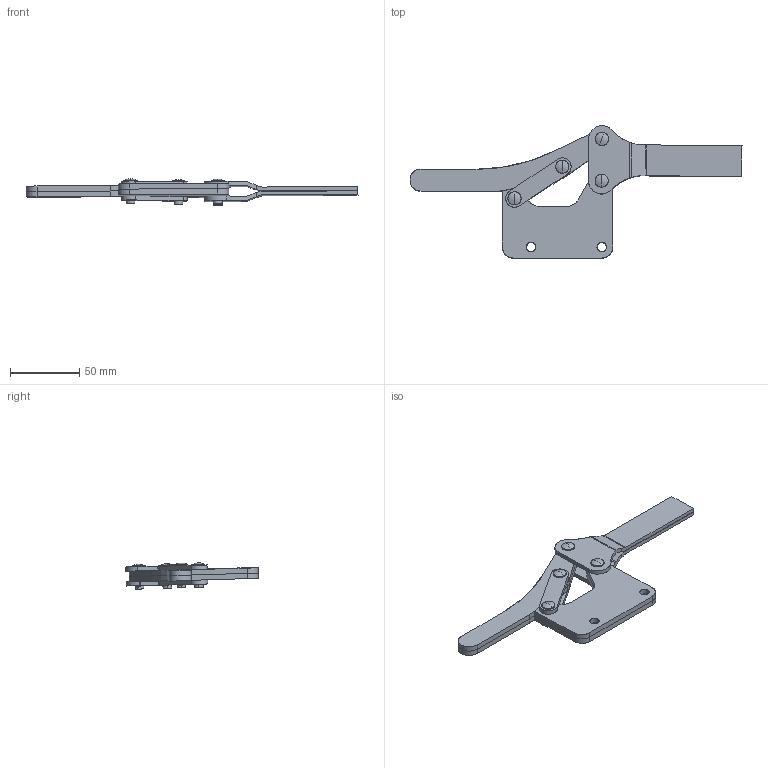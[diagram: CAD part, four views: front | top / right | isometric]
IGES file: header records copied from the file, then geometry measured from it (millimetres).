
Start section: SolidWorks IGES file using analytic representation for surfaces
Global section: file name: C:\lapeer-mfg\600\H-600\iges\HC-600sw.IGS; native system: SolidWorks 2005 by SolidWorks Corporation; preprocessor: SolidWorks 2005 by SolidWorks Corporation; author: rtaylor; date: 050329.181057; units: inch
Bounding box: 239.03 x 95.51 x 18.95 mm (x, y, z)
Surface area: 48413.3 mm2 (no closed solid volume)
Topology: 0 solids, 0 shells, 218 faces, 3396 edges, 3380 vertices
Faces by surface type: revolution 118, bspline 100
